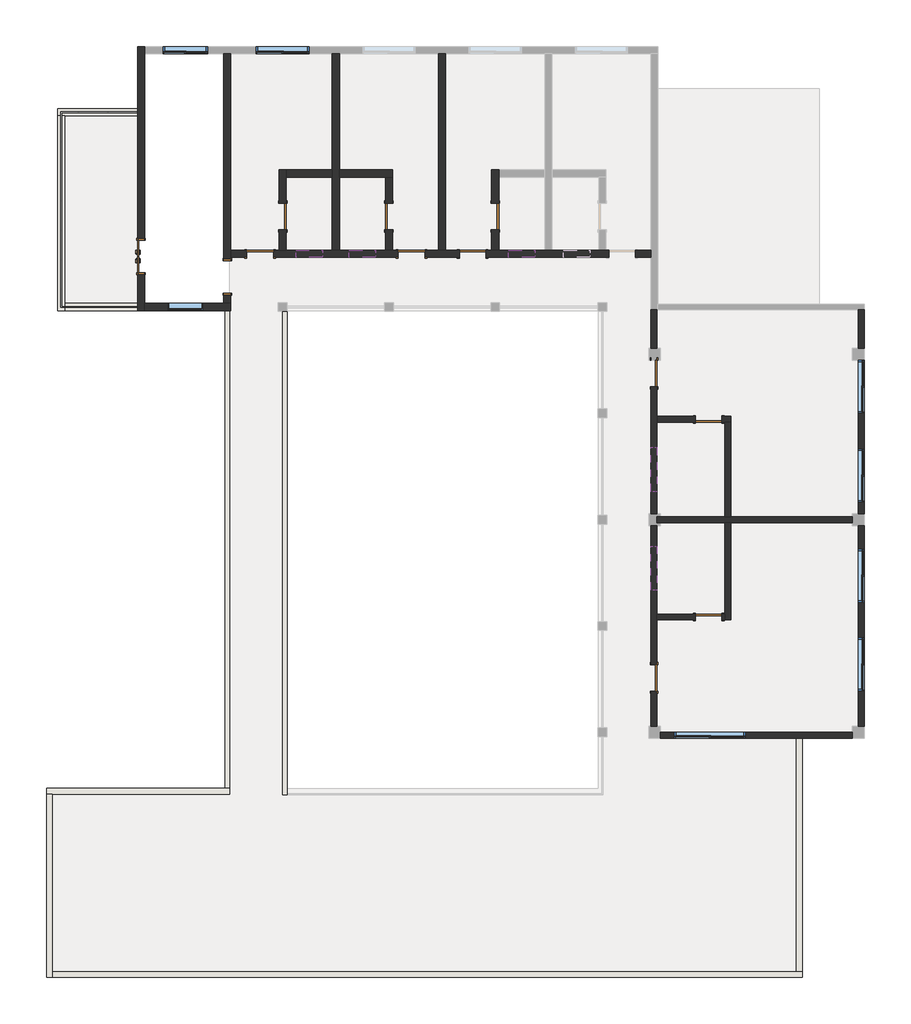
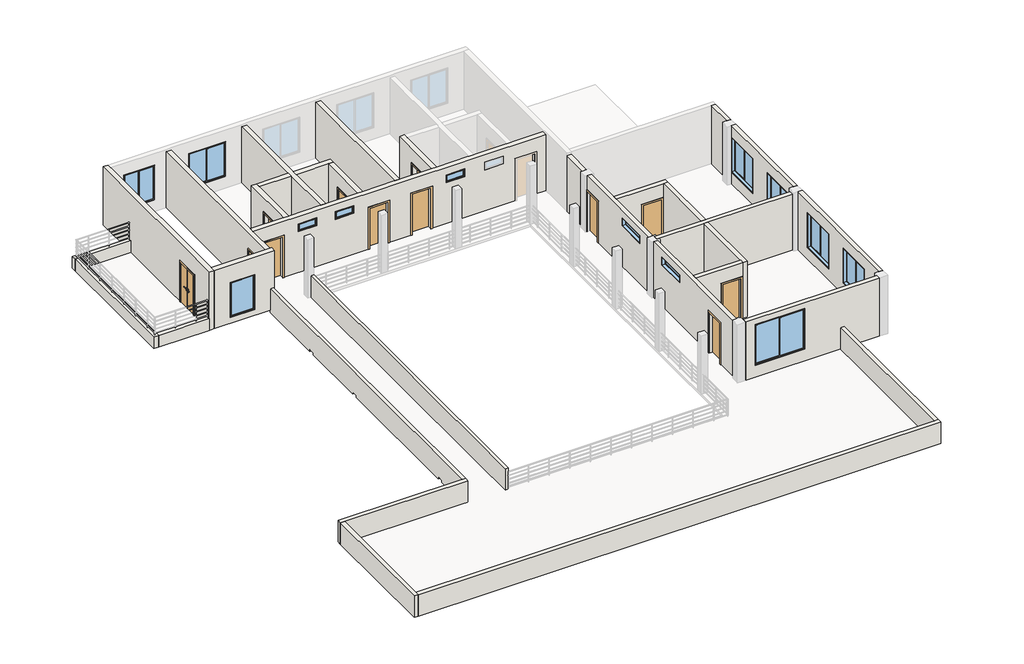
# One storey, part 1 of 3: 26 walls, 13 windows, 12 doors.
"""IFC4 building model written with IfcOpenShell, lengths in millimetres."""

from ifc_helpers import new_model, si_unit, frame, origin, place, context, project, spatial, polyline, outline, extrude, faceted_brep, transform, mapped, element, save
from components import d1221_ba4ee0d3, m0921_198a37c4, m0921_4988a537, m0921_bb00f214, m0921_8cb0c558, m1221_25037a99, c_5_6d0c946b, c1518_ca295862, c1818_23193a84, c1818_5bc19e4d, c2421_ffb013b5, gc0904_cdc2df7b, gc1504_f34aab0b

model = new_model("IFC4")

# Units and contexts
model_context = context("Model", 3, world=origin())
ifc_project = project(units=[si_unit("LENGTHUNIT", "METRE", prefix="MILLI")], contexts=[model_context])

# Site, building, storey
site = spatial("IfcSite", under=ifc_project)
building = spatial("IfcBuilding", under=site)
storey = spatial("IfcBuildingStorey", under=building, Name="标高 2", Elevation=4200.0)

# Doors
placement = place(None, origin())
d1221_shape = d1221_ba4ee0d3(model_context)
element("IfcDoor", 1, ObjectType="门洞 : D1221", at=placement, inside=storey, context=model_context, shape_type="MappedRepresentation", body=[
    mapped(d1221_shape, transform((-2938.2622628, 18064.1658649, 4200.0), x_axis=(0.0, -1.0, 0.0), y_axis=(1.0, 0.0, 0.0), z_axis=(0.0, 0.0, 1.0))),
])
m0921_shape = m0921_198a37c4(model_context)
element("IfcDoor", 2, ObjectType="单扇 - 与墙齐 : M0921", at=placement, inside=storey, context=model_context, shape_type="MappedRepresentation", body=[
    mapped(m0921_shape, transform((2536.7377372, 20109.1658649, 4200.0), x_axis=(0.0, -1.0, 0.0), y_axis=(1.0, 0.0, 0.0), z_axis=(0.0, 0.0, 1.0))),
])
element("IfcDoor", 3, ObjectType="单扇 - 与墙齐 : M0921", at=placement, inside=storey, context=model_context, shape_type="MappedRepresentation", body=[
    mapped(m0921_shape, transform((5371.7377372, 18844.1658649, 4200.0), x_axis=(-1.0, 0.0, 0.0), y_axis=(0.0, -1.0, 0.0), z_axis=(0.0, 0.0, 1.0))),
])
element("IfcDoor", 4, ObjectType="单扇 - 与墙齐 : M0921", at=placement, inside=storey, context=model_context, shape_type="MappedRepresentation", body=[
    mapped(m0921_shape, transform((-1828.2622628, 18844.1658649, 4200.0), x_axis=(-1.0, 0.0, 0.0), y_axis=(0.0, -1.0, 0.0), z_axis=(0.0, 0.0, 1.0))),
])
m0921_2_shape = m0921_4988a537(model_context)
element("IfcDoor", 5, ObjectType="单扇 - 与墙齐 : M0921", at=placement, inside=storey, context=model_context, shape_type="MappedRepresentation", body=[
    mapped(m0921_2_shape, transform((-1063.2622628, 20109.1658649, 4200.0), x_axis=(0.0, -1.0, 0.0), y_axis=(1.0, 0.0, 0.0), z_axis=(0.0, 0.0, 1.0))),
])
element("IfcDoor", 6, ObjectType="单扇 - 与墙齐 : M0921", at=placement, inside=storey, context=model_context, shape_type="MappedRepresentation", body=[
    mapped(m0921_2_shape, transform((6136.7377372, 20109.1658649, 4200.0), x_axis=(0.0, -1.0, 0.0), y_axis=(1.0, 0.0, 0.0), z_axis=(0.0, 0.0, 1.0))),
])
element("IfcDoor", 7, ObjectType="单扇 - 与墙齐 : M0921", at=placement, inside=storey, context=model_context, shape_type="MappedRepresentation", body=[
    mapped(m0921_2_shape, transform((3301.7377372, 18844.1658649, 4200.0), x_axis=(1.0, 0.0, 0.0), y_axis=(0.0, 1.0, 0.0), z_axis=(0.0, 0.0, 1.0))),
])
m0921_3_shape = m0921_bb00f214(model_context)
element("IfcDoor", 8, ObjectType="单扇 - 与墙齐 : M0921", at=placement, inside=storey, context=model_context, shape_type="MappedRepresentation", body=[
    mapped(m0921_3_shape, transform((11516.7377372, 14794.1658649, 4200.0), x_axis=(0.0, 1.0, 0.0), y_axis=(-1.0, 0.0, 0.0), z_axis=(0.0, 0.0, 1.0))),
])
element("IfcDoor", 9, ObjectType="单扇 - 与墙齐 : M0921", at=placement, inside=storey, context=model_context, shape_type="MappedRepresentation", body=[
    mapped(m0921_3_shape, transform((13371.7377372, 13239.1658649, 4200.0), x_axis=(1.0, 0.0, 0.0), y_axis=(0.0, 1.0, 0.0), z_axis=(0.0, 0.0, 1.0))),
])
m0921_4_shape = m0921_8cb0c558(model_context)
element("IfcDoor", 10, ObjectType="单扇 - 与墙齐 : M0921", at=placement, inside=storey, context=model_context, shape_type="MappedRepresentation", body=[
    mapped(m0921_4_shape, transform((13371.7377372, 6549.1658649, 4200.0), x_axis=(1.0, 0.0, 0.0), y_axis=(0.0, 1.0, 0.0), z_axis=(0.0, 0.0, 1.0))),
])
element("IfcDoor", 11, ObjectType="单扇 - 与墙齐 : M0921", at=placement, inside=storey, context=model_context, shape_type="MappedRepresentation", body=[
    mapped(m0921_4_shape, transform((11516.7377372, 4489.1658649, 4200.0), x_axis=(0.0, -1.0, 0.0), y_axis=(1.0, 0.0, 0.0), z_axis=(0.0, 0.0, 1.0))),
])
m1221_shape = m1221_25037a99(model_context)
element("IfcDoor", 12, ObjectType="双面嵌板木门 1 : M1221", at=placement, inside=storey, context=model_context, shape_type="MappedRepresentation", body=[
    mapped(m1221_shape, transform((-5863.2622628, 18759.1658649, 4200.0), x_axis=(0.0, 1.0, 0.0), y_axis=(-1.0, 0.0, 0.0), z_axis=(0.0, 0.0, 1.0))),
])

# Walls
element("IfcWall", 13, ObjectType="240mm厚墙", at=placement, inside=storey, context=model_context, shape_type="Brep", body=[
    faceted_brep([(-5743.2622628, 25864.1658649, 7200.0), (-5743.2622628, 25624.1658649, 7200.0), (-5743.2622628, 17164.1658649, 7200.0), (-5743.2622628, 16924.1658649, 7200.0), (-5743.2622628, 16924.1658649, 4200.0), (-5743.2622628, 17164.1658649, 4200.0), (-5743.2622628, 18159.1658649, 4200.0), (-5743.2622628, 18159.1658649, 6300.0), (-5743.2622628, 19359.1658649, 6300.0), (-5743.2622628, 19359.1658649, 4200.0), (-5743.2622628, 25624.1658649, 4200.0), (-5743.2622628, 25864.1658649, 4200.0), (-5983.2622628, 16924.1658649, 7200.0), (-5983.2622628, 25864.1658649, 7200.0), (-5983.2622628, 25864.1658649, 4200.0), (-5983.2622628, 23764.1658649, 4200.0), (-5983.2622628, 23524.1658649, 4200.0), (-5983.2622628, 19359.1658649, 4200.0), (-5983.2622628, 19359.1658649, 6300.0), (-5983.2622628, 18159.1658649, 6300.0), (-5983.2622628, 18159.1658649, 4200.0), (-5983.2622628, 17164.1658649, 4200.0), (-5983.2622628, 16924.1658649, 4200.0), (-5983.2622628, 16924.1658649, 4800.0)], [[[0, 1, 2, 3, 4, 5, 6, 7, 8, 9, 10, 11]], [[12, 13, 14, 15, 16, 17, 18, 19, 20, 21, 22, 23]], [[14, 11, 10, 9, 17, 16, 15]], [[4, 22, 21, 20, 6, 5]], [[3, 2, 1, 0, 13, 12]], [[0, 11, 14, 13]], [[3, 12, 23, 22, 4]], [[8, 18, 17, 9]], [[18, 8, 7, 19]], [[19, 7, 6, 20]]]),
])
element("IfcWall", 14, ObjectType="240mm厚墙", at=placement, inside=storey, context=model_context, shape_type="Brep", body=[
    faceted_brep([(-5743.2622628, 16924.1658649, 4200.0), (-2983.2622628, 16924.1658649, 4200.0), (-2868.2622628, 16924.1658649, 4200.0), (-2818.2622628, 16924.1658649, 4200.0), (-2818.2622628, 16924.1658649, 7200.0), (-5743.2622628, 16924.1658649, 7200.0), (-3763.2622628, 16924.1658649, 6300.0), (-3763.2622628, 16924.1658649, 4500.0), (-4963.2622628, 16924.1658649, 4500.0), (-4963.2622628, 16924.1658649, 6300.0), (-2818.2622628, 17164.1658649, 4200.0), (-2983.2622628, 17164.1658649, 4200.0), (-3058.2622628, 17164.1658649, 4200.0), (-5743.2622628, 17164.1658649, 4200.0), (-5743.2622628, 17164.1658649, 7200.0), (-2818.2622628, 17164.1658649, 7200.0), (-2818.2622628, 17164.1658649, 7080.0), (-3763.2622628, 17164.1658649, 4500.0), (-3763.2622628, 17164.1658649, 6300.0), (-4963.2622628, 17164.1658649, 6300.0), (-4963.2622628, 17164.1658649, 4500.0)], [[[0, 1, 2, 3, 4, 5], [6, 7, 8, 9]], [[10, 11, 12, 13, 14, 15, 16], [17, 18, 19, 20]], [[3, 2, 1, 0, 13, 12, 11, 10]], [[5, 4, 15, 14]], [[5, 14, 13, 0]], [[3, 10, 16, 15, 4]], [[17, 7, 6, 18]], [[19, 9, 8, 20]], [[7, 17, 20, 8]], [[9, 19, 18, 6]]]),
])
element("IfcWall", 15, ObjectType="240mm厚墙", at=placement, inside=storey, context=model_context, shape_type="Brep", body=[
    faceted_brep([(-2818.2622628, 17164.1658649, 4200.0), (-2818.2622628, 17464.1658649, 4200.0), (-2818.2622628, 17464.1658649, 6300.0), (-2818.2622628, 18664.1658649, 6300.0), (-2818.2622628, 18664.1658649, 4200.0), (-2818.2622628, 18724.1658649, 4200.0), (-2818.2622628, 18964.1658649, 4200.0), (-2818.2622628, 25624.1658649, 4200.0), (-2818.2622628, 25624.1658649, 7080.0), (-2818.2622628, 18964.1658649, 7080.0), (-2818.2622628, 18724.1658649, 7080.0), (-2818.2622628, 17164.1658649, 7080.0), (-3058.2622628, 17464.1658649, 4200.0), (-3058.2622628, 17164.1658649, 4200.0), (-3058.2622628, 17164.1658649, 7080.0), (-3058.2622628, 25624.1658649, 7080.0), (-3058.2622628, 25624.1658649, 4200.0), (-3058.2622628, 18664.1658649, 4200.0), (-3058.2622628, 18664.1658649, 6300.0), (-3058.2622628, 17464.1658649, 6300.0)], [[[0, 1, 2, 3, 4, 5, 6, 7, 8, 9, 10, 11]], [[12, 13, 14, 15, 16, 17, 18, 19]], [[16, 7, 6, 5, 4, 17]], [[1, 0, 13, 12]], [[7, 16, 15, 8]], [[19, 2, 1, 12]], [[2, 19, 18, 3]], [[3, 18, 17, 4]], [[13, 0, 11, 14]], [[11, 10, 9, 8, 15, 14]]]),
])
element("IfcWall", 16, ObjectType="240mm厚墙", at=placement, inside=storey, context=model_context, shape_type="Brep", body=[
    faceted_brep([(616.7377372, 25624.1658649, 4200.0), (616.7377372, 21684.1658649, 4200.0), (616.7377372, 21444.1658649, 4200.0), (616.7377372, 18964.1658649, 4200.0), (616.7377372, 18964.1658649, 7080.0), (616.7377372, 21444.1658649, 7080.0), (616.7377372, 21684.1658649, 7080.0), (616.7377372, 25624.1658649, 7080.0), (856.7377372, 18964.1658649, 4200.0), (856.7377372, 21444.1658649, 4200.0), (856.7377372, 21684.1658649, 4200.0), (856.7377372, 25624.1658649, 4200.0), (856.7377372, 25624.1658649, 7080.0), (856.7377372, 21684.1658649, 7080.0), (856.7377372, 21444.1658649, 7080.0), (856.7377372, 18964.1658649, 7080.0)], [[[0, 1, 2, 3, 4, 5, 6, 7]], [[8, 9, 10, 11, 12, 13, 14, 15]], [[3, 2, 1, 0, 11, 10, 9, 8]], [[11, 0, 7, 12]], [[3, 8, 15, 4]], [[7, 6, 5, 4, 15, 14, 13, 12]]]),
])
element("IfcWall", 17, ObjectType="240mm厚墙", at=placement, inside=storey, context=model_context, shape_type="Brep", body=[
    faceted_brep([(10886.7377372, 18724.1658649, 6300.0), (10886.7377372, 18724.1658649, 4200.0), (11416.7377372, 18724.1658649, 4200.0), (11416.7377372, 18724.1658649, 7080.0), (-2818.2622628, 18724.1658649, 7080.0), (-2818.2622628, 18724.1658649, 4200.0), (-2278.2622628, 18724.1658649, 4200.0), (-2278.2622628, 18724.1658649, 6300.0), (-1378.2622628, 18724.1658649, 6300.0), (-1378.2622628, 18724.1658649, 4200.0), (2851.7377372, 18724.1658649, 4200.0), (2851.7377372, 18724.1658649, 6300.0), (3751.7377372, 18724.1658649, 6300.0), (3751.7377372, 18724.1658649, 4200.0), (4921.7377372, 18724.1658649, 4200.0), (4921.7377372, 18724.1658649, 6300.0), (5821.7377372, 18724.1658649, 6300.0), (5821.7377372, 18724.1658649, 4200.0), (9986.7377372, 18724.1658649, 4200.0), (9986.7377372, 18724.1658649, 6300.0), (286.7377372, 18724.1658649, 6700.0), (286.7377372, 18724.1658649, 6300.0), (-613.2622628, 18724.1658649, 6300.0), (-613.2622628, 18724.1658649, 6700.0), (2086.7377372, 18724.1658649, 6700.0), (2086.7377372, 18724.1658649, 6300.0), (1186.7377372, 18724.1658649, 6300.0), (1186.7377372, 18724.1658649, 6700.0), (7486.7377372, 18724.1658649, 6700.0), (7486.7377372, 18724.1658649, 6300.0), (6586.7377372, 18724.1658649, 6300.0), (6586.7377372, 18724.1658649, 6700.0), (9351.7377372, 18724.1658649, 6700.0), (9351.7377372, 18724.1658649, 6300.0), (8451.7377372, 18724.1658649, 6300.0), (8451.7377372, 18724.1658649, 6700.0), (10886.7377372, 18964.1658649, 4200.0), (10886.7377372, 18964.1658649, 6300.0), (9986.7377372, 18964.1658649, 6300.0), (9986.7377372, 18964.1658649, 4200.0), (9886.7377372, 18964.1658649, 4200.0), (9646.7377372, 18964.1658649, 4200.0), (8056.7377372, 18964.1658649, 4200.0), (7816.7377372, 18964.1658649, 4200.0), (6256.7377372, 18964.1658649, 4200.0), (6016.7377372, 18964.1658649, 4200.0), (5821.7377372, 18964.1658649, 4200.0), (5821.7377372, 18964.1658649, 6300.0), (4921.7377372, 18964.1658649, 6300.0), (4921.7377372, 18964.1658649, 4200.0), (4456.7377372, 18964.1658649, 4200.0), (4216.7377372, 18964.1658649, 4200.0), (3751.7377372, 18964.1658649, 4200.0), (3751.7377372, 18964.1658649, 6300.0), (2851.7377372, 18964.1658649, 6300.0), (2851.7377372, 18964.1658649, 4200.0), (2656.7377372, 18964.1658649, 4200.0), (2416.7377372, 18964.1658649, 4200.0), (856.7377372, 18964.1658649, 4200.0), (616.7377372, 18964.1658649, 4200.0), (-943.2622628, 18964.1658649, 4200.0), (-1183.2622628, 18964.1658649, 4200.0), (-1378.2622628, 18964.1658649, 4200.0), (-1378.2622628, 18964.1658649, 6300.0), (-2278.2622628, 18964.1658649, 6300.0), (-2278.2622628, 18964.1658649, 4200.0), (-2818.2622628, 18964.1658649, 4200.0), (-2818.2622628, 18964.1658649, 7080.0), (-1183.2622628, 18964.1658649, 7080.0), (-943.2622628, 18964.1658649, 7080.0), (616.7377372, 18964.1658649, 7080.0), (856.7377372, 18964.1658649, 7080.0), (2416.7377372, 18964.1658649, 7080.0), (2656.7377372, 18964.1658649, 7080.0), (4216.7377372, 18964.1658649, 7080.0), (4456.7377372, 18964.1658649, 7080.0), (6016.7377372, 18964.1658649, 7080.0), (6256.7377372, 18964.1658649, 7080.0), (7816.7377372, 18964.1658649, 7080.0), (8056.7377372, 18964.1658649, 7080.0), (9646.7377372, 18964.1658649, 7080.0), (9886.7377372, 18964.1658649, 7080.0), (11416.7377372, 18964.1658649, 7080.0), (11416.7377372, 18964.1658649, 4200.0), (286.7377372, 18964.1658649, 6300.0), (286.7377372, 18964.1658649, 6700.0), (-613.2622628, 18964.1658649, 6700.0), (-613.2622628, 18964.1658649, 6300.0), (2086.7377372, 18964.1658649, 6300.0), (2086.7377372, 18964.1658649, 6700.0), (1186.7377372, 18964.1658649, 6700.0), (1186.7377372, 18964.1658649, 6300.0), (7486.7377372, 18964.1658649, 6300.0), (7486.7377372, 18964.1658649, 6700.0), (6586.7377372, 18964.1658649, 6700.0), (6586.7377372, 18964.1658649, 6300.0), (9351.7377372, 18964.1658649, 6300.0), (9351.7377372, 18964.1658649, 6700.0), (8451.7377372, 18964.1658649, 6700.0), (8451.7377372, 18964.1658649, 6300.0)], [[[0, 1, 2, 3, 4, 5, 6, 7, 8, 9, 10, 11, 12, 13, 14, 15, 16, 17, 18, 19], [20, 21, 22, 23], [24, 25, 26, 27], [28, 29, 30, 31], [32, 33, 34, 35]], [[36, 37, 38, 39, 40, 41, 42, 43, 44, 45, 46, 47, 48, 49, 50, 51, 52, 53, 54, 55, 56, 57, 58, 59, 60, 61, 62, 63, 64, 65, 66, 67, 68, 69, 70, 71, 72, 73, 74, 75, 76, 77, 78, 79, 80, 81, 82, 83], [84, 85, 86, 87], [88, 89, 90, 91], [92, 93, 94, 95], [96, 97, 98, 99]], [[5, 66, 65, 6]], [[83, 2, 1, 36]], [[39, 18, 17, 46, 45, 44, 43, 42, 41, 40]], [[49, 14, 13, 52, 51, 50]], [[55, 10, 9, 62, 61, 60, 59, 58, 57, 56]], [[2, 83, 82, 3]], [[66, 5, 4, 67]], [[37, 36, 1, 0]], [[38, 37, 0, 19]], [[39, 38, 19, 18]], [[15, 14, 49, 48]], [[16, 15, 48, 47]], [[17, 16, 47, 46]], [[53, 52, 13, 12]], [[54, 53, 12, 11]], [[55, 54, 11, 10]], [[7, 6, 65, 64]], [[8, 7, 64, 63]], [[9, 8, 63, 62]], [[85, 84, 21, 20]], [[86, 85, 20, 23]], [[87, 86, 23, 22]], [[84, 87, 22, 21]], [[89, 88, 25, 24]], [[90, 89, 24, 27]], [[91, 90, 27, 26]], [[88, 91, 26, 25]], [[93, 92, 29, 28]], [[94, 93, 28, 31]], [[95, 94, 31, 30]], [[92, 95, 30, 29]], [[97, 96, 33, 32]], [[98, 97, 32, 35]], [[99, 98, 35, 34]], [[96, 99, 34, 33]], [[4, 3, 82, 81, 80, 79, 78, 77, 76, 75, 74, 73, 72, 71, 70, 69, 68, 67]]]),
])
element("IfcWall", 18, ObjectType="240mm厚墙", at=placement, inside=storey, context=model_context, shape_type="SweptSolid", body=[
    extrude(outline(polyline([(4216.7377372, 18964.1658649), (4216.7377372, 25624.1658649), (4456.7377372, 25624.1658649), (4456.7377372, 18964.1658649), (4216.7377372, 18964.1658649)])), frame((0.0, 0.0, 4200.0), z_axis=(0.0, 0.0, 1.0), x_axis=(1.0, 0.0, 0.0)), (0.0, 0.0, 1.0), 2880.0),
])
element("IfcWall", 19, ObjectType="240mm厚墙", at=placement, inside=storey, context=model_context, shape_type="Brep", body=[
    faceted_brep([(-943.2622628, 19659.1658649, 4200.0), (-943.2622628, 19659.1658649, 6300.0), (-943.2622628, 20559.1658649, 6300.0), (-943.2622628, 20559.1658649, 4200.0), (-943.2622628, 21444.1658649, 4200.0), (-943.2622628, 21684.1658649, 4200.0), (-943.2622628, 21684.1658649, 7080.0), (-943.2622628, 21444.1658649, 7080.0), (-943.2622628, 18964.1658649, 7080.0), (-943.2622628, 18964.1658649, 4200.0), (-1183.2622628, 19659.1658649, 6300.0), (-1183.2622628, 19659.1658649, 4200.0), (-1183.2622628, 18964.1658649, 4200.0), (-1183.2622628, 18964.1658649, 7080.0), (-1183.2622628, 21684.1658649, 7080.0), (-1183.2622628, 21684.1658649, 4200.0), (-1183.2622628, 20559.1658649, 4200.0), (-1183.2622628, 20559.1658649, 6300.0)], [[[0, 1, 2, 3, 4, 5, 6, 7, 8, 9]], [[10, 11, 12, 13, 14, 15, 16, 17]], [[9, 12, 11, 0]], [[15, 5, 4, 3, 16]], [[12, 9, 8, 13]], [[5, 15, 14, 6]], [[1, 0, 11, 10]], [[2, 1, 10, 17]], [[3, 2, 17, 16]], [[8, 7, 6, 14, 13]]]),
])
element("IfcWall", 20, ObjectType="240mm厚墙", at=placement, inside=storey, context=model_context, shape_type="Brep", body=[
    faceted_brep([(-943.2622628, 21444.1658649, 4200.0), (616.7377372, 21444.1658649, 4200.0), (616.7377372, 21444.1658649, 7080.0), (-943.2622628, 21444.1658649, 7080.0), (616.7377372, 21684.1658649, 4200.0), (-943.2622628, 21684.1658649, 4200.0), (-943.2622628, 21684.1658649, 7080.0), (616.7377372, 21684.1658649, 7080.0)], [[[0, 1, 2, 3]], [[4, 5, 6, 7]], [[0, 5, 4, 1]], [[5, 0, 3, 6]], [[1, 4, 7, 2]], [[3, 2, 7, 6]]]),
    faceted_brep([(856.7377372, 21444.1658649, 4200.0), (2416.7377372, 21444.1658649, 4200.0), (2656.7377372, 21444.1658649, 4200.0), (2656.7377372, 21444.1658649, 7080.0), (856.7377372, 21444.1658649, 7080.0), (2656.7377372, 21684.1658649, 4200.0), (856.7377372, 21684.1658649, 4200.0), (856.7377372, 21684.1658649, 7080.0), (2656.7377372, 21684.1658649, 7080.0)], [[[0, 1, 2, 3, 4]], [[5, 6, 7, 8]], [[2, 1, 0, 6, 5]], [[6, 0, 4, 7]], [[2, 5, 8, 3]], [[4, 3, 8, 7]]]),
])
element("IfcWall", 21, ObjectType="240mm厚墙", at=placement, inside=storey, context=model_context, shape_type="SweptSolid", body=[
    extrude(outline(polyline([(19659.1658649, 6300.0), (19659.1658649, 4200.0), (18964.1658649, 4200.0), (18964.1658649, 7080.0), (21444.1658649, 7080.0), (21444.1658649, 4200.0), (20559.1658649, 4200.0), (20559.1658649, 6300.0), (19659.1658649, 6300.0)])), frame((2416.7377372, 0.0, 0.0), z_axis=(1.0, 0.0, 0.0), x_axis=(0.0, 1.0, 0.0)), (0.0, 0.0, 1.0), 240.0),
])
element("IfcWall", 22, ObjectType="240mm厚墙", at=placement, inside=storey, context=model_context, shape_type="Brep", body=[
    faceted_brep([(6256.7377372, 19659.1658649, 4200.0), (6256.7377372, 19659.1658649, 6300.0), (6256.7377372, 20559.1658649, 6300.0), (6256.7377372, 20559.1658649, 4200.0), (6256.7377372, 21444.1658649, 4200.0), (6256.7377372, 21684.1658649, 4200.0), (6256.7377372, 21684.1658649, 7080.0), (6256.7377372, 21444.1658649, 7080.0), (6256.7377372, 18964.1658649, 7080.0), (6256.7377372, 18964.1658649, 4200.0), (6016.7377372, 19659.1658649, 6300.0), (6016.7377372, 19659.1658649, 4200.0), (6016.7377372, 18964.1658649, 4200.0), (6016.7377372, 18964.1658649, 7080.0), (6016.7377372, 21684.1658649, 7080.0), (6016.7377372, 21684.1658649, 4200.0), (6016.7377372, 20559.1658649, 4200.0), (6016.7377372, 20559.1658649, 6300.0)], [[[0, 1, 2, 3, 4, 5, 6, 7, 8, 9]], [[10, 11, 12, 13, 14, 15, 16, 17]], [[9, 12, 11, 0]], [[15, 5, 4, 3, 16]], [[12, 9, 8, 13]], [[5, 15, 14, 6]], [[1, 0, 11, 10]], [[2, 1, 10, 17]], [[3, 2, 17, 16]], [[8, 7, 6, 14, 13]]]),
])
element("IfcWall", 23, ObjectType="200mm厚墙", at=placement, inside=storey, context=model_context, shape_type="SweptSolid", body=[
    extrude(outline(polyline([(18436.7377372, 16944.1658649), (18636.7377372, 16944.1658649), (18636.7377372, 15644.1658649), (18436.7377372, 15644.1658649), (18436.7377372, 16944.1658649)])), frame((0.0, 0.0, 4200.0), z_axis=(0.0, 0.0, 1.0), x_axis=(1.0, 0.0, 0.0)), (0.0, 0.0, 1.0), 3000.0),
    extrude(outline(polyline([(15244.1658649, 4800.0), (15244.1658649, 4200.0), (10044.1658649, 4200.0), (10044.1658649, 7200.0), (15244.1658649, 7200.0), (15244.1658649, 6600.0), (13449.1658649, 6600.0), (13449.1658649, 4800.0), (15244.1658649, 4800.0)]), holes=[polyline([(10439.1658649, 6600.0), (10439.1658649, 4800.0), (12239.1658649, 4800.0), (12239.1658649, 6600.0), (10439.1658649, 6600.0)])]), frame((18436.7377372, 0.0, 0.0), z_axis=(1.0, 0.0, 0.0), x_axis=(0.0, 1.0, 0.0)), (0.0, 0.0, 1.0), 200.0),
    extrude(outline(polyline([(9644.1658649, 7200.0), (9644.1658649, 4200.0), (2844.1658649, 4200.0), (2844.1658649, 7200.0), (9644.1658649, 7200.0)]), holes=[polyline([(7049.1658649, 6600.0), (7049.1658649, 4800.0), (8849.1658649, 4800.0), (8849.1658649, 6600.0), (7049.1658649, 6600.0)]), polyline([(4049.1658649, 6600.0), (4049.1658649, 4800.0), (5849.1658649, 4800.0), (5849.1658649, 6600.0), (4049.1658649, 6600.0)])]), frame((18436.7377372, 0.0, 0.0), z_axis=(1.0, 0.0, 0.0), x_axis=(0.0, 1.0, 0.0)), (0.0, 0.0, 1.0), 200.0),
])
element("IfcWall", 24, ObjectType="200mm厚墙", at=placement, inside=storey, context=model_context, shape_type="Brep", body=[
    faceted_brep([(11736.7377372, 2644.1658649, 4200.0), (11736.7377372, 2644.1658649, 7200.0), (18236.7377372, 2644.1658649, 7200.0), (18236.7377372, 2644.1658649, 4200.0), (12211.7377372, 2644.1658649, 6900.0), (12211.7377372, 2644.1658649, 4800.0), (14611.7377372, 2644.1658649, 4800.0), (14611.7377372, 2644.1658649, 6900.0), (11736.7377372, 2444.1658649, 7200.0), (11736.7377372, 2444.1658649, 4200.0), (16336.7377372, 2444.1658649, 4200.0), (16536.7377372, 2444.1658649, 4200.0), (18236.7377372, 2444.1658649, 4200.0), (18236.7377372, 2444.1658649, 7200.0), (12211.7377372, 2444.1658649, 4800.0), (12211.7377372, 2444.1658649, 6900.0), (14611.7377372, 2444.1658649, 6900.0), (14611.7377372, 2444.1658649, 4800.0)], [[[0, 1, 2, 3], [4, 5, 6, 7]], [[8, 9, 10, 11, 12, 13], [14, 15, 16, 17]], [[9, 0, 3, 12, 11, 10]], [[1, 8, 13, 2]], [[1, 0, 9, 8]], [[3, 2, 13, 12]], [[5, 4, 15, 14]], [[6, 5, 14, 17]], [[7, 6, 17, 16]], [[4, 7, 16, 15]]]),
])
element("IfcWall", 25, ObjectType="200mm厚墙", at=placement, inside=storey, context=model_context, shape_type="Brep", body=[
    faceted_brep([(11616.7377372, 15644.1658649, 7080.0), (11616.7377372, 15644.1658649, 4200.0), (11616.7377372, 16944.1658649, 4200.0), (11616.7377372, 16944.1658649, 7080.0), (11416.7377372, 15644.1658649, 4200.0), (11416.7377372, 15644.1658649, 7080.0), (11416.7377372, 16944.1658649, 7080.0), (11416.7377372, 16944.1658649, 4200.0)], [[[0, 1, 2, 3]], [[4, 5, 6, 7]], [[7, 2, 1, 4]], [[2, 7, 6, 3]], [[1, 0, 5, 4]], [[0, 3, 6, 5]]]),
    faceted_brep([(11616.7377372, 9644.1658649, 4200.0), (11616.7377372, 9644.1658649, 7080.0), (11616.7377372, 6649.1658649, 7080.0), (11616.7377372, 6449.1658649, 7080.0), (11616.7377372, 2844.1658649, 7080.0), (11616.7377372, 2844.1658649, 4200.0), (11616.7377372, 4039.1658649, 4200.0), (11616.7377372, 4039.1658649, 6300.0), (11616.7377372, 4939.1658649, 6300.0), (11616.7377372, 4939.1658649, 4200.0), (11616.7377372, 6449.1658649, 4200.0), (11616.7377372, 6649.1658649, 4200.0), (11616.7377372, 8946.6658649, 6700.0), (11616.7377372, 8946.6658649, 6300.0), (11616.7377372, 7446.6658649, 6300.0), (11616.7377372, 7446.6658649, 6700.0), (11416.7377372, 9644.1658649, 7080.0), (11416.7377372, 9644.1658649, 4200.0), (11416.7377372, 4939.1658649, 4200.0), (11416.7377372, 4939.1658649, 6300.0), (11416.7377372, 4039.1658649, 6300.0), (11416.7377372, 4039.1658649, 4200.0), (11416.7377372, 2844.1658649, 4200.0), (11416.7377372, 2844.1658649, 7080.0), (11416.7377372, 8946.6658649, 6300.0), (11416.7377372, 8946.6658649, 6700.0), (11416.7377372, 7446.6658649, 6700.0), (11416.7377372, 7446.6658649, 6300.0)], [[[0, 1, 2, 3, 4, 5, 6, 7, 8, 9, 10, 11], [12, 13, 14, 15]], [[16, 17, 18, 19, 20, 21, 22, 23], [24, 25, 26, 27]], [[17, 0, 11, 10, 9, 18]], [[5, 22, 21, 6]], [[1, 0, 17, 16]], [[22, 5, 4, 23]], [[7, 6, 21, 20]], [[8, 7, 20, 19]], [[9, 8, 19, 18]], [[25, 24, 13, 12]], [[26, 25, 12, 15]], [[27, 26, 15, 14]], [[24, 27, 14, 13]], [[4, 3, 2, 1, 16, 23]]]),
    faceted_brep([(11616.7377372, 10044.1658649, 7080.0), (11616.7377372, 10044.1658649, 4200.0), (11616.7377372, 13139.1658649, 4200.0), (11616.7377372, 13339.1658649, 4200.0), (11616.7377372, 14344.1658649, 4200.0), (11616.7377372, 14344.1658649, 6300.0), (11616.7377372, 15244.1658649, 6300.0), (11616.7377372, 15244.1658649, 7080.0), (11616.7377372, 13339.1658649, 7080.0), (11616.7377372, 13139.1658649, 7080.0), (11616.7377372, 12291.6658649, 6700.0), (11616.7377372, 12291.6658649, 6300.0), (11616.7377372, 10791.6658649, 6300.0), (11616.7377372, 10791.6658649, 6700.0), (11416.7377372, 10044.1658649, 4200.0), (11416.7377372, 10044.1658649, 7080.0), (11416.7377372, 15244.1658649, 7080.0), (11416.7377372, 15244.1658649, 6300.0), (11416.7377372, 14344.1658649, 6300.0), (11416.7377372, 14344.1658649, 4200.0), (11416.7377372, 12291.6658649, 6300.0), (11416.7377372, 12291.6658649, 6700.0), (11416.7377372, 10791.6658649, 6700.0), (11416.7377372, 10791.6658649, 6300.0)], [[[0, 1, 2, 3, 4, 5, 6, 7, 8, 9], [10, 11, 12, 13]], [[14, 15, 16, 17, 18, 19], [20, 21, 22, 23]], [[1, 14, 19, 4, 3, 2]], [[7, 6, 17, 16]], [[1, 0, 15, 14]], [[18, 17, 6, 5]], [[19, 18, 5, 4]], [[21, 20, 11, 10]], [[22, 21, 10, 13]], [[23, 22, 13, 12]], [[20, 23, 12, 11]], [[0, 9, 8, 7, 16, 15]]]),
])
element("IfcWall", 26, ObjectType="200mm厚墙", at=placement, inside=storey, context=model_context, shape_type="Brep", body=[
    faceted_brep([(11616.7377372, 9744.1658649, 4200.0), (13916.7377372, 9744.1658649, 4200.0), (14116.7377372, 9744.1658649, 4200.0), (18236.7377372, 9744.1658649, 4200.0), (18236.7377372, 9744.1658649, 7080.0), (14116.7377372, 9744.1658649, 7080.0), (13916.7377372, 9744.1658649, 7080.0), (11616.7377372, 9744.1658649, 7080.0), (18236.7377372, 9944.1658649, 4200.0), (14116.7377372, 9944.1658649, 4200.0), (13916.7377372, 9944.1658649, 4200.0), (11616.7377372, 9944.1658649, 4200.0), (11616.7377372, 9944.1658649, 7080.0), (13916.7377372, 9944.1658649, 7080.0), (14116.7377372, 9944.1658649, 7080.0), (18236.7377372, 9944.1658649, 7080.0)], [[[0, 1, 2, 3, 4, 5, 6, 7]], [[8, 9, 10, 11, 12, 13, 14, 15]], [[0, 11, 10, 9, 8, 3, 2, 1]], [[11, 0, 7, 12]], [[3, 8, 15, 4]], [[7, 6, 5, 4, 15, 14, 13, 12]]]),
])
element("IfcWall", 27, ObjectType="200mm厚墙", at=placement, inside=storey, context=model_context, shape_type="Brep", body=[
    faceted_brep([(13821.7377372, 13139.1658649, 6300.0), (13821.7377372, 13139.1658649, 4200.0), (13916.7377372, 13139.1658649, 4200.0), (14116.7377372, 13139.1658649, 4200.0), (14116.7377372, 13139.1658649, 7080.0), (13916.7377372, 13139.1658649, 7080.0), (11616.7377372, 13139.1658649, 7080.0), (11616.7377372, 13139.1658649, 4200.0), (12921.7377372, 13139.1658649, 4200.0), (12921.7377372, 13139.1658649, 6300.0), (13821.7377372, 13339.1658649, 4200.0), (13821.7377372, 13339.1658649, 6300.0), (12921.7377372, 13339.1658649, 6300.0), (12921.7377372, 13339.1658649, 4200.0), (11616.7377372, 13339.1658649, 4200.0), (11616.7377372, 13339.1658649, 7080.0), (14116.7377372, 13339.1658649, 7080.0), (14116.7377372, 13339.1658649, 4200.0)], [[[0, 1, 2, 3, 4, 5, 6, 7, 8, 9]], [[10, 11, 12, 13, 14, 15, 16, 17]], [[7, 14, 13, 8]], [[17, 3, 2, 1, 10]], [[14, 7, 6, 15]], [[3, 17, 16, 4]], [[11, 10, 1, 0]], [[12, 11, 0, 9]], [[13, 12, 9, 8]], [[6, 5, 4, 16, 15]]]),
])
element("IfcWall", 28, ObjectType="200mm厚墙", at=placement, inside=storey, context=model_context, shape_type="Brep", body=[
    faceted_brep([(13916.7377372, 13139.1658649, 4200.0), (13916.7377372, 9944.1658649, 4200.0), (13916.7377372, 9944.1658649, 7080.0), (13916.7377372, 13139.1658649, 7080.0), (14116.7377372, 9944.1658649, 4200.0), (14116.7377372, 13139.1658649, 4200.0), (14116.7377372, 13139.1658649, 7080.0), (14116.7377372, 9944.1658649, 7080.0)], [[[0, 1, 2, 3]], [[4, 5, 6, 7]], [[0, 5, 4, 1]], [[5, 0, 3, 6]], [[1, 4, 7, 2]], [[3, 2, 7, 6]]]),
    faceted_brep([(13916.7377372, 9744.1658649, 4200.0), (13916.7377372, 6649.1658649, 4200.0), (13916.7377372, 6449.1658649, 4200.0), (13916.7377372, 6449.1658649, 7080.0), (13916.7377372, 9744.1658649, 7080.0), (14116.7377372, 6449.1658649, 4200.0), (14116.7377372, 9744.1658649, 4200.0), (14116.7377372, 9744.1658649, 7080.0), (14116.7377372, 6449.1658649, 7080.0)], [[[0, 1, 2, 3, 4]], [[5, 6, 7, 8]], [[2, 1, 0, 6, 5]], [[6, 0, 4, 7]], [[2, 5, 8, 3]], [[4, 3, 8, 7]]]),
])
element("IfcWall", 29, ObjectType="200mm厚墙", at=placement, inside=storey, context=model_context, shape_type="SweptSolid", body=[
    extrude(outline(polyline([(6300.0, 13821.7377372), (4200.0, 13821.7377372), (4200.0, 13916.7377372), (7080.0, 13916.7377372), (7080.0, 11616.7377372), (4200.0, 11616.7377372), (4200.0, 12921.7377372), (6300.0, 12921.7377372), (6300.0, 13821.7377372)])), frame((0.0, 6449.1658649, 0.0), z_axis=(0.0, 1.0, 0.0), x_axis=(0.0, 0.0, 1.0)), (0.0, 0.0, 1.0), 200.0),
])
element("IfcWall", 30, ObjectType="240mm厚墙", at=placement, inside=storey, context=model_context, shape_type="Brep", body=[
    faceted_brep([(-5983.2622628, 23764.1658649, 4200.0), (-8683.2622628, 23764.1658649, 4200.0), (-8683.2622628, 23764.1658649, 4800.0), (-5983.2622628, 23764.1658649, 4800.0), (-5983.2622628, 23524.1658649, 4200.0), (-5983.2622628, 23524.1658649, 4800.0), (-8443.2622628, 23524.1658649, 4800.0), (-8683.2622628, 23524.1658649, 4800.0), (-8683.2622628, 23524.1658649, 4200.0), (-8443.2622628, 23524.1658649, 4200.0)], [[[0, 1, 2, 3]], [[4, 5, 6, 7, 8, 9]], [[1, 0, 4, 9, 8]], [[3, 2, 7, 6, 5]], [[0, 3, 5, 4]], [[2, 1, 8, 7]]]),
])
element("IfcWall", 31, ObjectType="240mm厚墙", at=placement, inside=storey, context=model_context, shape_type="Brep", body=[
    faceted_brep([(-8683.2622628, 23524.1658649, 4200.0), (-8683.2622628, 16924.1658649, 4200.0), (-8683.2622628, 16924.1658649, 4800.0), (-8683.2622628, 23524.1658649, 4800.0), (-8443.2622628, 23524.1658649, 4200.0), (-8443.2622628, 23524.1658649, 4800.0), (-8443.2622628, 17164.1658649, 4800.0), (-8443.2622628, 16924.1658649, 4800.0), (-8443.2622628, 16924.1658649, 4200.0), (-8443.2622628, 17164.1658649, 4200.0)], [[[0, 1, 2, 3]], [[4, 5, 6, 7, 8, 9]], [[1, 0, 4, 9, 8]], [[3, 2, 7, 6, 5]], [[0, 3, 5, 4]], [[2, 1, 8, 7]]]),
])
element("IfcWall", 32, ObjectType="200mm厚墙", at=placement, inside=storey, context=model_context, shape_type="Brep", body=[
    faceted_brep([(-2863.2622628, 744.1658649, 4200.0), (-3063.2622628, 744.1658649, 4200.0), (-8663.2622628, 744.1658649, 4200.0), (-9063.2622628, 744.1658649, 4200.0), (-9063.2622628, 744.1658649, 5300.0), (-3013.2622628, 744.1658649, 5300.0), (-2863.2622628, 744.1658649, 5300.0), (-2863.2622628, 544.1658649, 4200.0), (-2863.2622628, 544.1658649, 5300.0), (-8863.2622628, 544.1658649, 5300.0), (-9063.2622628, 544.1658649, 5300.0), (-9063.2622628, 544.1658649, 4200.0), (-8863.2622628, 544.1658649, 4200.0), (-8663.2622628, 544.1658649, 4200.0), (-3063.2622628, 544.1658649, 4200.0)], [[[0, 1, 2, 3, 4, 5, 6]], [[7, 8, 9, 10, 11, 12, 13, 14]], [[3, 2, 1, 0, 7, 14, 13, 12, 11]], [[6, 5, 4, 10, 9, 8]], [[4, 3, 11, 10]], [[0, 6, 8, 7]]]),
])
element("IfcWall", 33, ObjectType="200mm厚墙", at=placement, inside=storey, context=model_context, shape_type="Brep", body=[
    faceted_brep([(-9063.2622628, 544.1658649, 4200.0), (-9063.2622628, -5655.8341351, 4200.0), (-9063.2622628, -5655.8341351, 5300.0), (-9063.2622628, 544.1658649, 5300.0), (-8863.2622628, 544.1658649, 4200.0), (-8863.2622628, 544.1658649, 5300.0), (-8863.2622628, -5455.8341351, 5300.0), (-8863.2622628, -5655.8341351, 5300.0), (-8863.2622628, -5655.8341351, 4200.0), (-8863.2622628, -5455.8341351, 4200.0)], [[[0, 1, 2, 3]], [[4, 5, 6, 7, 8, 9]], [[1, 0, 4, 9, 8]], [[3, 2, 7, 6, 5]], [[0, 3, 5, 4]], [[2, 1, 8, 7]]]),
])
element("IfcWall", 34, ObjectType="200mm厚墙", at=placement, inside=storey, context=model_context, shape_type="Brep", body=[
    faceted_brep([(-8863.2622628, -5655.8341351, 4200.0), (16536.7377372, -5655.8341351, 4200.0), (16536.7377372, -5655.8341351, 5300.0), (-8863.2622628, -5655.8341351, 5300.0), (-8863.2622628, -5455.8341351, 4200.0), (-8863.2622628, -5455.8341351, 5300.0), (16336.7377372, -5455.8341351, 5300.0), (16536.7377372, -5455.8341351, 5300.0), (16536.7377372, -5455.8341351, 4200.0), (16336.7377372, -5455.8341351, 4200.0)], [[[0, 1, 2, 3]], [[4, 5, 6, 7, 8, 9]], [[1, 0, 4, 9, 8]], [[3, 2, 7, 6, 5]], [[0, 3, 5, 4]], [[2, 1, 8, 7]]]),
])
element("IfcWall", 35, ObjectType="200mm厚墙", at=placement, inside=storey, context=model_context, shape_type="SweptSolid", body=[
    extrude(outline(polyline([(16536.7377372, 2444.1658649), (16536.7377372, -5455.8341351), (16336.7377372, -5455.8341351), (16336.7377372, 2444.1658649), (16536.7377372, 2444.1658649)])), frame((0.0, 0.0, 4200.0), z_axis=(0.0, 0.0, 1.0), x_axis=(1.0, 0.0, 0.0)), (0.0, 0.0, 1.0), 1100.0),
])
element("IfcWall", 36, ObjectType="150mm厚墙", at=placement, inside=storey, context=model_context, shape_type="Brep", body=[
    faceted_brep([(-2863.2622628, 16924.1658649, 5300.0), (-2863.2622628, 744.1658649, 5300.0), (-2863.2622628, 744.1658649, 4200.0), (-2863.2622628, 744.1658649, 4080.0), (-2863.2622628, 2494.1658649, 4080.0), (-2863.2622628, 2494.1658649, 4200.0), (-2863.2622628, 2794.1658649, 4200.0), (-2863.2622628, 2794.1658649, 4080.0), (-2863.2622628, 9694.1658649, 4080.0), (-2863.2622628, 9694.1658649, 4200.0), (-2863.2622628, 9994.1658649, 4200.0), (-2863.2622628, 9994.1658649, 4080.0), (-2863.2622628, 13294.1658649, 4080.0), (-2863.2622628, 13294.1658649, 4200.0), (-2863.2622628, 13594.1658649, 4200.0), (-2863.2622628, 13594.1658649, 4080.0), (-2863.2622628, 16924.1658649, 4080.0), (-3013.2622628, 744.1658649, 5300.0), (-3013.2622628, 16924.1658649, 5300.0), (-3013.2622628, 16924.1658649, 4080.0), (-3013.2622628, 13594.1658649, 4080.0), (-3013.2622628, 13594.1658649, 4200.0), (-3013.2622628, 13294.1658649, 4200.0), (-3013.2622628, 13294.1658649, 4080.0), (-3013.2622628, 9994.1658649, 4080.0), (-3013.2622628, 9994.1658649, 4200.0), (-3013.2622628, 9694.1658649, 4200.0), (-3013.2622628, 9694.1658649, 4080.0), (-3013.2622628, 2794.1658649, 4080.0), (-3013.2622628, 2794.1658649, 4200.0), (-3013.2622628, 2494.1658649, 4200.0), (-3013.2622628, 2494.1658649, 4080.0), (-3013.2622628, 744.1658649, 4080.0), (-2868.2622628, 13294.1658649, 4200.0), (-2868.2622628, 13594.1658649, 4200.0), (-2868.2622628, 9694.1658649, 4200.0), (-2868.2622628, 9994.1658649, 4200.0), (-2868.2622628, 2494.1658649, 4200.0), (-2868.2622628, 2794.1658649, 4200.0)], [[[0, 1, 2, 3, 4, 5, 6, 7, 8, 9, 10, 11, 12, 13, 14, 15, 16]], [[17, 18, 19, 20, 21, 22, 23, 24, 25, 26, 27, 28, 29, 30, 31, 32]], [[19, 16, 15, 20]], [[3, 32, 31, 4]], [[23, 12, 11, 24]], [[27, 8, 7, 28]], [[1, 0, 18, 17]], [[16, 19, 18, 0]], [[32, 3, 2, 1, 17]], [[22, 33, 13, 12, 23]], [[14, 34, 21, 20, 15]], [[13, 33, 22, 21, 34, 14]], [[26, 35, 9, 8, 27]], [[10, 36, 25, 24, 11]], [[9, 35, 26, 25, 36, 10]], [[30, 37, 5, 4, 31]], [[6, 38, 29, 28, 7]], [[5, 37, 30, 29, 38, 6]]]),
])
element("IfcWall", 37, ObjectType="150mm厚墙", at=placement, inside=storey, context=model_context, shape_type="SweptSolid", body=[
    extrude(outline(polyline([(17044.1658649, 4083.5992966), (524.1658649, 4083.5992966), (524.1658649, 5300.0), (16894.1658649, 5300.0), (16894.1658649, 4200.0), (17044.1658649, 4200.0), (17044.1658649, 4083.5992966)])), frame((-1063.2622628, 0.0, 0.0), z_axis=(1.0, 0.0, 0.0), x_axis=(0.0, 1.0, 0.0)), (0.0, 0.0, 1.0), 150.0),
])
element("IfcWall", 38, ObjectType="240mm厚墙", at=placement, inside=storey, context=model_context, shape_type="SweptSolid", body=[
    extrude(outline(polyline([(-5983.2622628, 16924.1658649), (-8443.2622628, 16924.1658649), (-8443.2622628, 17164.1658649), (-5983.2622628, 17164.1658649), (-5983.2622628, 16924.1658649)])), frame((0.0, 0.0, 4200.0), z_axis=(0.0, 0.0, 1.0), x_axis=(1.0, 0.0, 0.0)), (0.0, 0.0, 1.0), 600.0),
])

# Windows
c_5_shape = c_5_6d0c946b(model_context)
element("IfcWindow", 39, ObjectType="固定 : C-5", at=placement, inside=storey, context=model_context, shape_type="MappedRepresentation", body=[
    mapped(c_5_shape, transform((-4363.2622628, 17057.1658649, 2900.0), x_axis=(-1.0, 0.0, 0.0), y_axis=(0.0, -1.0, 0.0), z_axis=(0.0, 0.0, 1.0))),
])
c1518_shape = c1518_ca295862(model_context)
element("IfcWindow", 40, ObjectType="推拉窗6 : C1518", at=placement, inside=storey, context=model_context, shape_type="MappedRepresentation", body=[
    mapped(c1518_shape, transform((-4353.7372628, 25677.2924274, 4200.0), x_axis=(-1.0, 0.0, 0.0), y_axis=(0.0, -1.0, 0.0), z_axis=(0.0, 0.0, 1.0))),
])
c1818_shape = c1818_23193a84(model_context)
element("IfcWindow", 41, ObjectType="推拉窗6 : C1818", at=placement, inside=storey, context=model_context, shape_type="MappedRepresentation", body=[
    mapped(c1818_shape, transform((-1053.7372628, 25677.2924274, 4200.0), x_axis=(-1.0, 0.0, 0.0), y_axis=(0.0, -1.0, 0.0), z_axis=(0.0, 0.0, 1.0))),
])
c1818_2_shape = c1818_5bc19e4d(model_context)
element("IfcWindow", 42, ObjectType="推拉窗6 : C1818", at=placement, inside=storey, context=model_context, shape_type="MappedRepresentation", body=[
    mapped(c1818_2_shape, transform((18603.6111747, 14358.6908649, 4200.0), x_axis=(0.0, -1.0, 0.0), y_axis=(1.0, 0.0, 0.0), z_axis=(0.0, 0.0, 1.0))),
])
element("IfcWindow", 43, ObjectType="推拉窗6 : C1818", at=placement, inside=storey, context=model_context, shape_type="MappedRepresentation", body=[
    mapped(c1818_2_shape, transform((18603.6111747, 11348.6908649, 4200.0), x_axis=(0.0, -1.0, 0.0), y_axis=(1.0, 0.0, 0.0), z_axis=(0.0, 0.0, 1.0))),
])
element("IfcWindow", 44, ObjectType="推拉窗6 : C1818", at=placement, inside=storey, context=model_context, shape_type="MappedRepresentation", body=[
    mapped(c1818_2_shape, transform((18603.6111747, 7958.6908649, 4200.0), x_axis=(0.0, -1.0, 0.0), y_axis=(1.0, 0.0, 0.0), z_axis=(0.0, 0.0, 1.0))),
])
element("IfcWindow", 45, ObjectType="推拉窗6 : C1818", at=placement, inside=storey, context=model_context, shape_type="MappedRepresentation", body=[
    mapped(c1818_2_shape, transform((18603.6111747, 4958.6908649, 4200.0), x_axis=(0.0, -1.0, 0.0), y_axis=(1.0, 0.0, 0.0), z_axis=(0.0, 0.0, 1.0))),
])
c2421_shape = c2421_ffb013b5(model_context)
element("IfcWindow", 46, ObjectType="推拉窗6 : C2421", at=placement, inside=storey, context=model_context, shape_type="MappedRepresentation", body=[
    mapped(c2421_shape, transform((13421.2627372, 2477.2924274, 4200.0), x_axis=(-1.0, 0.0, 0.0), y_axis=(0.0, -1.0, 0.0), z_axis=(0.0, 0.0, 1.0))),
])
gc0904_shape = gc0904_cdc2df7b(model_context)
element("IfcWindow", 47, ObjectType="固定 : GC0904", at=placement, inside=storey, context=model_context, shape_type="MappedRepresentation", body=[
    mapped(gc0904_shape, transform((-163.2622628, 18857.1658649, 5385.0), x_axis=(-1.0, 0.0, 0.0), y_axis=(0.0, -1.0, 0.0), z_axis=(0.0, 0.0, 1.0))),
])
element("IfcWindow", 48, ObjectType="固定 : GC0904", at=placement, inside=storey, context=model_context, shape_type="MappedRepresentation", body=[
    mapped(gc0904_shape, transform((1636.7377372, 18857.1658649, 5385.0), x_axis=(-1.0, 0.0, 0.0), y_axis=(0.0, -1.0, 0.0), z_axis=(0.0, 0.0, 1.0))),
])
element("IfcWindow", 49, ObjectType="固定 : GC0904", at=placement, inside=storey, context=model_context, shape_type="MappedRepresentation", body=[
    mapped(gc0904_shape, transform((7036.7377372, 18857.1658649, 5385.0), x_axis=(-1.0, 0.0, 0.0), y_axis=(0.0, -1.0, 0.0), z_axis=(0.0, 0.0, 1.0))),
])
gc1504_shape = gc1504_f34aab0b(model_context)
element("IfcWindow", 50, ObjectType="固定 : GC1504", at=placement, inside=storey, context=model_context, shape_type="MappedRepresentation", body=[
    mapped(gc1504_shape, transform((11503.7377372, 11541.6658649, 5385.0), x_axis=(0.0, -1.0, 0.0), y_axis=(1.0, 0.0, 0.0), z_axis=(0.0, 0.0, 1.0))),
])
element("IfcWindow", 51, ObjectType="固定 : GC1504", at=placement, inside=storey, context=model_context, shape_type="MappedRepresentation", body=[
    mapped(gc1504_shape, transform((11503.7377372, 8196.6658649, 5385.0), x_axis=(0.0, -1.0, 0.0), y_axis=(1.0, 0.0, 0.0), z_axis=(0.0, 0.0, 1.0))),
])

save(model, "model.ifc")
